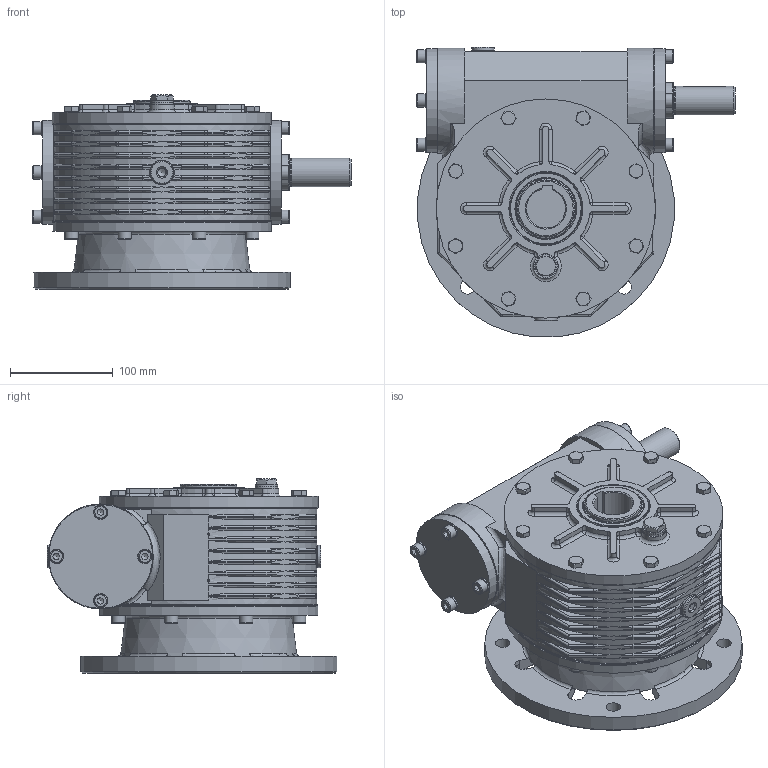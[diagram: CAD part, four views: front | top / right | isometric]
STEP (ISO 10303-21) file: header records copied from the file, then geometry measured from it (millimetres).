
FILE_DESCRIPTION((''),'2;1');
FILE_NAME('Y:\Archivi Inventor\Prog_01\GRAND_50\complessivi\Figurini\MRV50 sito\RV50\RV50_F1.stp','2013-02-11T10:45:09',('tech3'),(''),'Autodesk Inventor 2013','Autodesk Inventor 2013','');
FILE_SCHEMA(('AUTOMOTIVE_DESIGN { 1 0 10303 214 1 1 1 1 }'));
Length unit declared in the file: millimetre
Products named in the file (21): rv50_fig; mrv50_fig; Figurino_carcassa_MRV50; 0105028; 0105029; figurino_corona_MRV50; Guarnizione 3_8 GAS; Tappo 3_8 GAS_esagn_incsst; figurino_0105009; ISO 4017 M8 x 20; 55_70_8; fig_0105002; figurino_0105003; ISO 4762 M8 x 16; Tappo3_8 GAS; UNI 6592 8.4 x 14; UNI 5931  M 8 x  25; 0105012; DIN EN ISO 4762 M8 x 20; fig_0105011-A0; PARAOLIO 35x47x8
Assembly tree (49 placements, depth 3):
  rv50_fig
    mrv50_fig
      Figurino_carcassa_MRV50
      0105028  x2
      0105029  x2
      figurino_corona_MRV50
      Guarnizione 3_8 GAS  x3
      Tappo 3_8 GAS_esagn_incsst  x2
      figurino_0105009
      ISO 4017 M8 x 20  x8
      55_70_8  x2
      fig_0105002
      figurino_0105003
      ISO 4762 M8 x 16  x8
      Tappo3_8 GAS
      UNI 6592 8.4 x 14  x4
      UNI 5931  M 8 x  25  x4
    0105012
    DIN EN ISO 4762 M8 x 20  x4
    fig_0105011-A0
    PARAOLIO 35x47x8
Bounding box: 309.45 x 281.52 x 188.7 mm (x, y, z)
Volume: 5769030.5 mm3; surface area: 823288.5 mm2
Topology: 60 solids, 66 shells, 1672 faces, 3999 edges, 2383 vertices
Faces by surface type: plane 605, cylinder 527, torus 193, cone 193, bspline 124, sphere 30
Full cylindrical faces by diameter (mm): 2 x2, 6.647 x25, 8 x26, 8.4 x4, 8.5 x48, 11.63 x8, 13 x20, 13.046 x1, 14 x8, 14.95 x3, 16.3 x3, 16.5 x2, 22 x6, 24 x2, 27.4 x1, 28 x1, 35 x1, 39.605 x1, 43.5 x1, 47 x2, 55 x1, 66.4 x2, 69 x2, 70 x5, 72 x4, 73 x2, 75 x1, 80 x1, 90 x1, 99.5 x2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
Entity records: 43391 total; most frequent: CARTESIAN_POINT 14714, DIRECTION 5956, ORIENTED_EDGE 5344, EDGE_CURVE 2672, AXIS2_PLACEMENT_3D 2527, VERTEX_POINT 1761, EDGE_LOOP 1625, CIRCLE 1319
